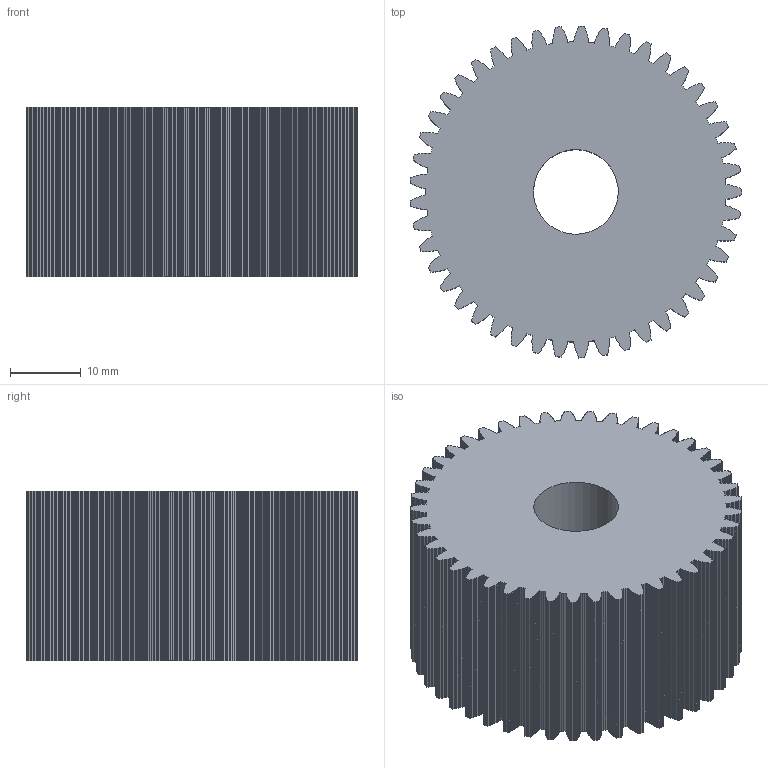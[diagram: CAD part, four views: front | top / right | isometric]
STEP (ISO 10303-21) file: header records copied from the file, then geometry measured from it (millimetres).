
FILE_DESCRIPTION(('FreeCAD Model'),'2;1');
FILE_NAME('Open CASCADE Shape Model','2026-11-05T18:54:48',('FreeCAD'),( 'FreeCAD'),'Open CASCADE STEP processor 7.8','FreeCAD','Unknown');
FILE_SCHEMA(('AUTOMOTIVE_DESIGN { 1 0 10303 214 1 1 1 1 }'));
Length unit declared in the file: millimetre
Products named in the file (1): Open CASCADE STEP translator 7.8 50
Bounding box: 46.97 x 46.99 x 24 mm (x, y, z)
Volume: 35171.3 mm3; surface area: 10742.5 mm2
Topology: 1 solids, 1 shells, 1398 faces, 4188 edges, 2792 vertices
Faces by surface type: plane 1397, cylinder 1
Full cylindrical faces by diameter (mm): 12 x1
Entity records: 46108 total; most frequent: CARTESIAN_POINT 8379, ORIENTED_EDGE 8376, DIRECTION 6988, EDGE_CURVE 4188, LINE 4186, VECTOR 4186, VERTEX_POINT 2792, AXIS2_PLACEMENT_3D 1401
